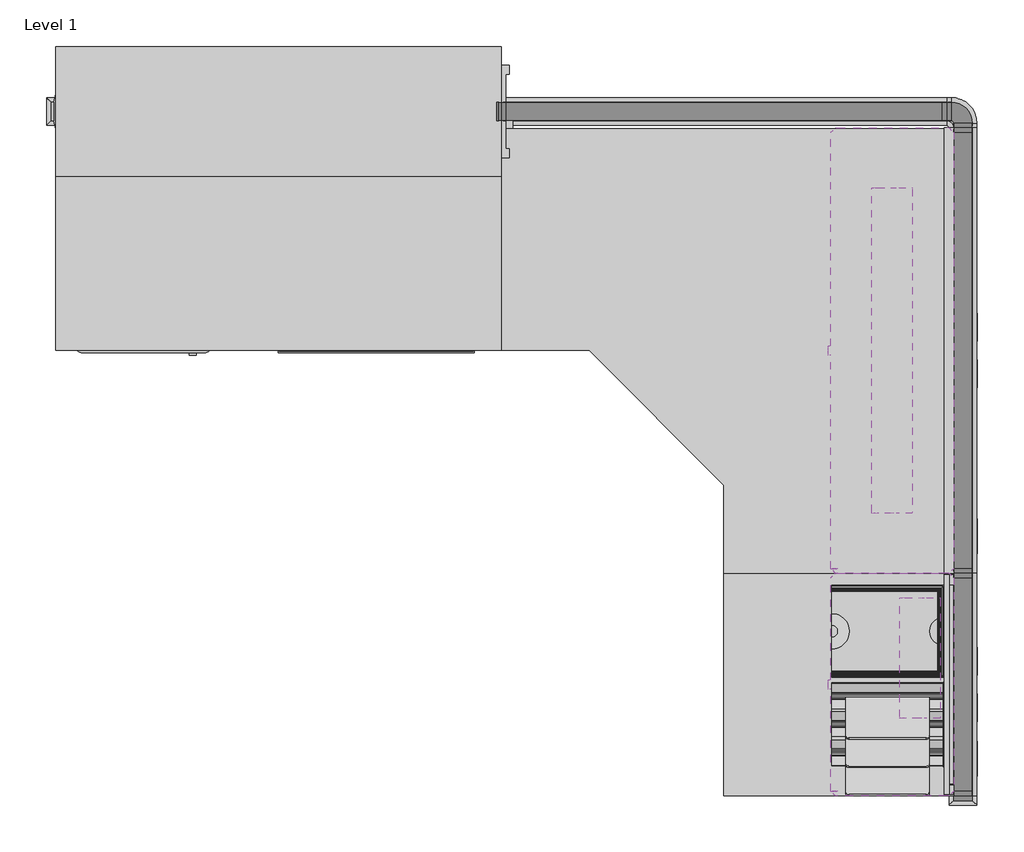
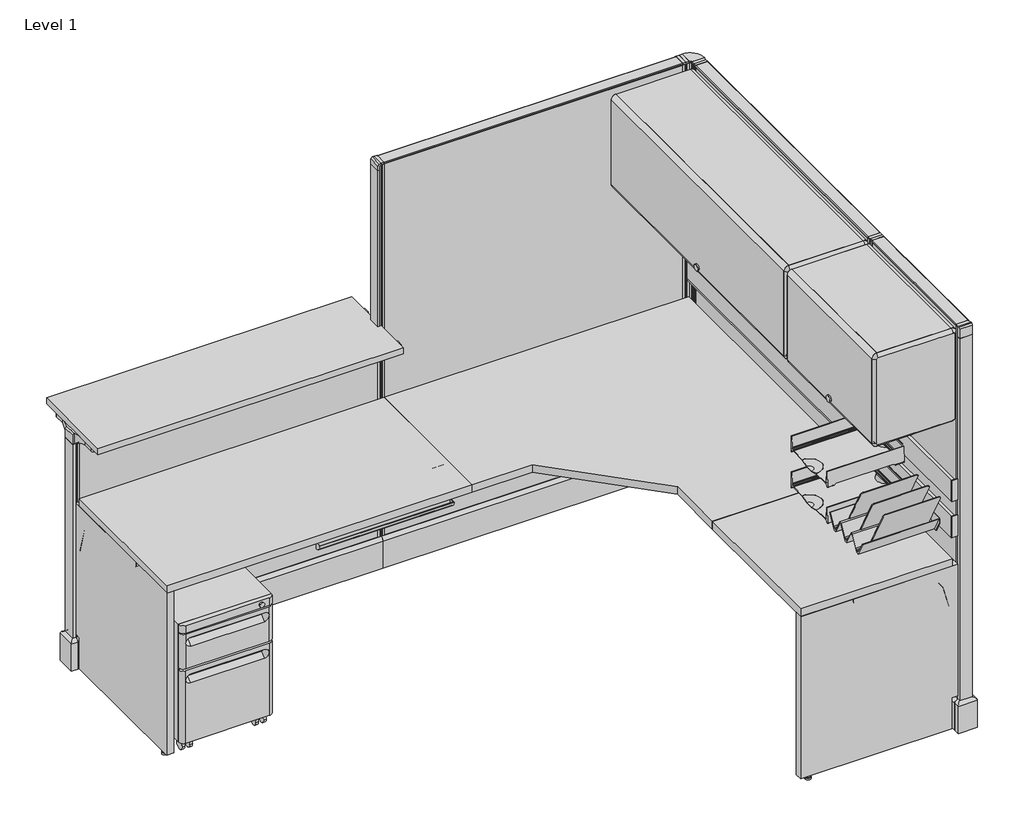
# One storey, incomplete: 25 furniture elements, 2 light fixtures.
"""IFC4 building model written with IfcOpenShell, lengths in millimetres."""

from ifc_helpers import new_model, si_unit, origin, place, context, project, spatial, transform, mapped, element, save
from components import furniture_d54c757f, furniture_75fc3fe0, furniture_a2665887, furniture_baef4f76, furniture_b123b550, furniture_d4c6b201, furniture_db9437f5, furniture_cb78dd66, furniture_6098a880, furniture_6a59721d, furniture_2520e590, furniture_083a197f, furniture_8d18111b, furniture_218a3b14, furniture_78394d11, furniture_7109f743, furniture_98713a82, furniture_f221023d, furniture_84c54a78, furniture_b7c7402d, furniture_b46e1aaf, furniture_0d48e931, furniture_5c2546f9, furniture_ba981915, light_fixture_5a12cc18, light_fixture_0c34e72c

model = new_model("IFC4")

# Units and contexts
model_context = context("Model", 3, world=origin())
ifc_project = project(units=[si_unit("LENGTHUNIT", "METRE", prefix="MILLI")], contexts=[model_context])

# Site, building, storey
site = spatial("IfcSite", under=ifc_project)
building = spatial("IfcBuilding", under=site)
storey = spatial("IfcBuildingStorey", under=building, Name="Level 1", Elevation=0.0)

# Furniture
placement = place(None, origin())
furniture_shape = furniture_d54c757f(model_context)
element("IfcFurniture", 1, ObjectType="HermanMiller_ThrivePortfolio_Y5010_PencilDrawer : 2\"H x 16\"D x 21\"W", at=placement, inside=storey, context=model_context, shape_type="MappedRepresentation", body=[
    mapped(furniture_shape, transform((876.76482, -428.1678, 0.0), x_axis=(1.0, 0.0, 0.0), y_axis=(0.0, 1.0, 0.0), z_axis=(0.0, 0.0, 1.0))),
])
furniture_2_shape = furniture_75fc3fe0(model_context)
element("IfcFurniture", 2, ObjectType="HermanMiller_ThrivePortfolio_Y7218_DiagonalTray : 8 1/2\"H x 12\"D x 13\"W", at=placement, inside=storey, context=model_context, shape_type="MappedRepresentation", body=[
    mapped(furniture_2_shape, transform((2278.02948, -1651.9574966, 3.175), x_axis=(0.0, -1.0, 0.0), y_axis=(1.0, 0.0, 0.0), z_axis=(0.0, 0.0, 1.0))),
])
furniture_3_shape = furniture_a2665887(model_context)
element("IfcFurniture", 3, ObjectType="HermanMiller_ThrivePortfolio_Y7216_PaperTray : 3\"H x 12\"D x 10\"W", at=placement, inside=storey, context=model_context, shape_type="MappedRepresentation", body=[
    mapped(furniture_3_shape, transform((2278.02948, -1397.0, 0.0), x_axis=(0.0, -1.0, 0.0), y_axis=(1.0, 0.0, 0.0), z_axis=(0.0, 0.0, 1.0))),
])
furniture_4_shape = furniture_baef4f76(model_context)
element("IfcFurniture", 4, ObjectType="HermanMiller_ThrivePortfolio_Y7216_PaperTray : 3\"H x 12\"D x 10\"W", at=placement, inside=storey, context=model_context, shape_type="MappedRepresentation", body=[
    mapped(furniture_4_shape, transform((2278.02948, -1397.0, -3.4e-06), x_axis=(0.0, -1.0, 0.0), y_axis=(1.0, 0.0, 0.0), z_axis=(0.0, 0.0, 1.0))),
])
furniture_5_shape = furniture_b123b550(model_context)
element("IfcFurniture", 5, ObjectType="HermanMiller_ActionOffice_A3352_B-StyleFlipperDoorUnit : 15 1/2\"H x 13\"D x 24\"W", at=placement, inside=storey, context=model_context, shape_type="MappedRepresentation", body=[
    mapped(furniture_5_shape, transform((2276.475, -1543.05, 0.0), x_axis=(0.0, -1.0, 0.0), y_axis=(1.0, 0.0, 0.0), z_axis=(0.0, 0.0, 1.0))),
])
furniture_6_shape = furniture_d4c6b201(model_context)
element("IfcFurniture", 6, ObjectType="HermanMiller_ActionOffice_A2310_Sq-EdgeRectangularWorkSurface : 24\"D x 24\"W", at=placement, inside=storey, context=model_context, shape_type="MappedRepresentation", body=[
    mapped(furniture_6_shape, transform((2143.125, -1543.05, 0.0), x_axis=(0.0, -1.0, 0.0), y_axis=(1.0, 0.0, 0.0), z_axis=(0.0, 0.0, 1.0))),
])
furniture_7_shape = furniture_db9437f5(model_context)
element("IfcFurniture", 7, ObjectType="HermanMiller_ActionOffice_A2332_Sq-EdgeCornerWorkSurface : 24\"D x 48\"W", at=placement, inside=storey, context=model_context, shape_type="MappedRepresentation", body=[
    mapped(furniture_7_shape, transform((1673.225, -762.0, 0.0), x_axis=(0.0, -1.0, 0.0), y_axis=(1.0, 0.0, 0.0), z_axis=(0.0, 0.0, 1.0))),
])
furniture_8_shape = furniture_cb78dd66(model_context)
element("IfcFurniture", 8, ObjectType="HermanMiller_ActionOffice_A3410_B-StyleTackboard : 16\"H x 48\"W", at=placement, inside=storey, context=model_context, shape_type="MappedRepresentation", body=[
    mapped(furniture_8_shape, transform((2444.75, -628.65, 0.0), x_axis=(0.0, -1.0, 0.0), y_axis=(1.0, 0.0, 0.0), z_axis=(0.0, 0.0, 1.0))),
])
furniture_9_shape = furniture_6098a880(model_context)
element("IfcFurniture", 9, ObjectType="HermanMiller_ActionOffice_A3352_B-StyleFlipperDoorUnit : 15 1/2\"H x 13\"D x 48\"W", at=placement, inside=storey, context=model_context, shape_type="MappedRepresentation", body=[
    mapped(furniture_9_shape, transform((2276.475, -628.65, 0.0), x_axis=(0.0, -1.0, 0.0), y_axis=(1.0, 0.0, 0.0), z_axis=(0.0, 0.0, 1.0))),
])
furniture_10_shape = furniture_6a59721d(model_context)
element("IfcFurniture", 10, ObjectType="HermanMiller_ActionOffice_A3610_ToolBar : 4\"H x 24\"W", at=placement, inside=storey, context=model_context, shape_type="MappedRepresentation", body=[
    mapped(furniture_10_shape, transform((2444.7500004, -1543.05, 0.0), x_axis=(0.0, -1.0, 0.0), y_axis=(1.0, 0.0, 0.0), z_axis=(0.0, 0.0, 1.0))),
])
furniture_11_shape = furniture_2520e590(model_context)
element("IfcFurniture", 11, ObjectType="HermanMiller_ActionOffice_A3610_ToolBar : 4\"H x 24\"W", at=placement, inside=storey, context=model_context, shape_type="MappedRepresentation", body=[
    mapped(furniture_11_shape, transform((2444.7500004, -1543.05, 0.0), x_axis=(0.0, -1.0, 0.0), y_axis=(1.0, 0.0, 0.0), z_axis=(0.0, 0.0, 1.0))),
])
furniture_12_shape = furniture_083a197f(model_context)
element("IfcFurniture", 12, ObjectType="HermanMiller_ActionOffice_A2310_Sq-EdgeRectangularWorkSurface : 24\"D x 48\"W", at=placement, inside=storey, context=model_context, shape_type="MappedRepresentation", body=[
    mapped(furniture_12_shape, transform((609.6, -314.325, 0.0), x_axis=(1.0, 0.0, 0.0), y_axis=(0.0, 1.0, 0.0), z_axis=(0.0, 0.0, 1.0))),
])
furniture_13_shape = furniture_8d18111b(model_context)
element("IfcFurniture", 13, ObjectType="HermanMiller_ActionOffice_A2830_Sq-EdgeTransactionSurfaceRectangularEnd : 14\"D x 48\"W", at=placement, inside=storey, context=model_context, shape_type="MappedRepresentation", body=[
    mapped(furniture_13_shape, transform((609.6, 203.2, 0.0), x_axis=(1.0, 0.0, 0.0), y_axis=(0.0, 1.0, 0.0), z_axis=(0.0, 0.0, 1.0))),
])
furniture_14_shape = furniture_218a3b14(model_context)
element("IfcFurniture", 14, ObjectType="HermanMiller_ActionOffice_AO460-AO464_TransactionSurfaceSupport : Chg-of-Ht", at=placement, inside=storey, context=model_context, shape_type="MappedRepresentation", body=[
    mapped(furniture_14_shape, transform((2768.6, 15.8749976, 0.0), x_axis=(-1.0, 0.0, 0.0), y_axis=(0.0, -1.0, 0.0), z_axis=(0.0, 0.0, 1.0))),
])
furniture_15_shape = furniture_78394d11(model_context)
element("IfcFurniture", 15, ObjectType="HermanMiller_ActionOffice_A1110_Hard-SurfacedPanelStandardBase : 39\"H x 48\"W-N", at=placement, inside=storey, context=model_context, shape_type="MappedRepresentation", body=[
    mapped(furniture_15_shape, transform((609.6, 25.4, 0.0), x_axis=(1.0, 0.0, 0.0), y_axis=(0.0, 1.0, 0.0), z_axis=(0.0, 0.0, 1.0))),
])
furniture_16_shape = furniture_7109f743(model_context)
element("IfcFurniture", 16, ObjectType="HermanMiller_ActionOffice_A1110_Hard-SurfacedPanelStandardBase : 67\"H x 48\"W-N", at=placement, inside=storey, context=model_context, shape_type="MappedRepresentation", body=[
    mapped(furniture_16_shape, transform((1828.8, 25.4, 0.0), x_axis=(1.0, 0.0, 0.0), y_axis=(0.0, 1.0, 0.0), z_axis=(0.0, 0.0, 1.0))),
])
furniture_17_shape = furniture_98713a82(model_context)
element("IfcFurniture", 17, ObjectType="HermanMiller_ActionOffice_A1110_Hard-SurfacedPanelStandardBase : 67\"H x 24\"W-G", at=placement, inside=storey, context=model_context, shape_type="MappedRepresentation", body=[
    mapped(furniture_17_shape, transform((2482.85, -1543.05, 0.0), x_axis=(0.0, -1.0, 0.0), y_axis=(1.0, 0.0, 0.0), z_axis=(0.0, 0.0, 1.0))),
])
furniture_18_shape = furniture_f221023d(model_context)
element("IfcFurniture", 18, ObjectType="HermanMiller_ActionOffice_A1110_Hard-SurfacedPanelStandardBase : 67\"H x 48\"W-G", at=placement, inside=storey, context=model_context, shape_type="MappedRepresentation", body=[
    mapped(furniture_18_shape, transform((2482.85, -628.65, 0.0), x_axis=(0.0, -1.0, 0.0), y_axis=(1.0, 0.0, 0.0), z_axis=(0.0, 0.0, 1.0))),
])
furniture_19_shape = furniture_84c54a78(model_context)
element("IfcFurniture", 19, ObjectType="HermanMiller_QuadrantFiling_G5111_MobilePedestal : 21-1/2\"H x 20\"D x 15\"W BF", at=placement, inside=storey, context=model_context, shape_type="MappedRepresentation", body=[
    mapped(furniture_19_shape, transform((239.44326, -371.332763, 0.0), x_axis=(1.0, 0.0, 0.0), y_axis=(0.0, 1.0, 0.0), z_axis=(0.0, 0.0, 1.0))),
])
furniture_20_shape = furniture_b7c7402d(model_context)
element("IfcFurniture", 20, ObjectType="HermanMiller_ActionOffice_A2380_WorkSuraceSupportPanelEnd : 24\"D", at=placement, inside=storey, context=model_context, shape_type="MappedRepresentation", body=[
    mapped(furniture_20_shape, transform((1828.8, -1819.275, 0.0), x_axis=(0.0, -1.0, 0.0), y_axis=(1.0, 0.0, 0.0), z_axis=(0.0, 0.0, 1.0))),
])
element("IfcFurniture", 21, ObjectType="HermanMiller_ActionOffice_A2380_WorkSuraceSupportPanelEnd : 24\"D", at=placement, inside=storey, context=model_context, shape_type="MappedRepresentation", body=[
    mapped(furniture_20_shape, transform((0.0, -627.4562, 0.0), x_axis=(1.0, 0.0, 0.0), y_axis=(0.0, 1.0, 0.0), z_axis=(0.0, 0.0, 1.0))),
])
furniture_21_shape = furniture_b46e1aaf(model_context)
element("IfcFurniture", 22, ObjectType="HermanMiller_ActionOffice_AO259_AO272_FinishedEndChangeOfHeight : 32\"H Panel/Panel", at=placement, inside=storey, context=model_context, shape_type="MappedRepresentation", body=[
    mapped(furniture_21_shape, transform((1145.9790033, 104.9709922, 0.0), x_axis=(-1.0, 0.0, 0.0), y_axis=(0.0, -1.0, 0.0), z_axis=(0.0, 0.0, 1.0))),
])
furniture_22_shape = furniture_0d48e931(model_context)
element("IfcFurniture", 23, ObjectType="HermanMiller_ActionOffice_A1271_FinishedEndStandardBase : 39\"H Trans End Spt", at=placement, inside=storey, context=model_context, shape_type="MappedRepresentation", body=[
    mapped(furniture_22_shape, transform((1984.8560512, -2423.3387877, 0.0), x_axis=(-1.0, 0.0, 0.0), y_axis=(0.0, -1.0, 0.0), z_axis=(0.0, 0.0, 1.0))),
])
furniture_23_shape = furniture_5c2546f9(model_context)
element("IfcFurniture", 24, ObjectType="HermanMiller_ActionOffice_A1271_FinishedEndStandardBase : 67\"H", at=placement, inside=storey, context=model_context, shape_type="MappedRepresentation", body=[
    mapped(furniture_23_shape, transform((4931.5887877, 137.0060512, 0.0), x_axis=(0.0, -1.0, 0.0), y_axis=(1.0, 0.0, 0.0), z_axis=(0.0, 0.0, 1.0))),
])
furniture_24_shape = furniture_ba981915(model_context)
element("IfcFurniture", 25, ObjectType="HermanMiller_ActionOffice_A1220_90ConnectorStandardBase : 67\"H 2-Way-Hard", at=placement, inside=storey, context=model_context, shape_type="MappedRepresentation", body=[
    mapped(furniture_24_shape, transform((2476.5, 10.8860586, 0.0), x_axis=(1.0, 0.0, 0.0), y_axis=(0.0, 1.0, 0.0), z_axis=(0.0, 0.0, 1.0))),
])

# Light fixtures
light_fixture_shape = light_fixture_5a12cc18(model_context)
element("IfcLightFixture", 26, ObjectType="HermanMiller_SupplementalProducts_G6136_UtilityTaskLight : AO Etho Canvas 42W", at=placement, inside=storey, context=model_context, shape_type="MappedRepresentation", body=[
    mapped(light_fixture_shape, transform((2289.175, -628.65, 0.0), x_axis=(0.0, -1.0, 0.0), y_axis=(1.0, 0.0, 0.0), z_axis=(0.0, 0.0, 1.0))),
])
light_fixture_2_shape = light_fixture_0c34e72c(model_context)
element("IfcLightFixture", 27, ObjectType="HermanMiller_SupplementalProducts_G6136_UtilityTaskLight : AO Etho Canvas 24W", at=placement, inside=storey, context=model_context, shape_type="MappedRepresentation", body=[
    mapped(light_fixture_2_shape, transform((2365.375, -1470.279, 0.0), x_axis=(0.0, -1.0, 0.0), y_axis=(1.0, 0.0, 0.0), z_axis=(0.0, 0.0, 1.0))),
])

save(model, "model.ifc")
